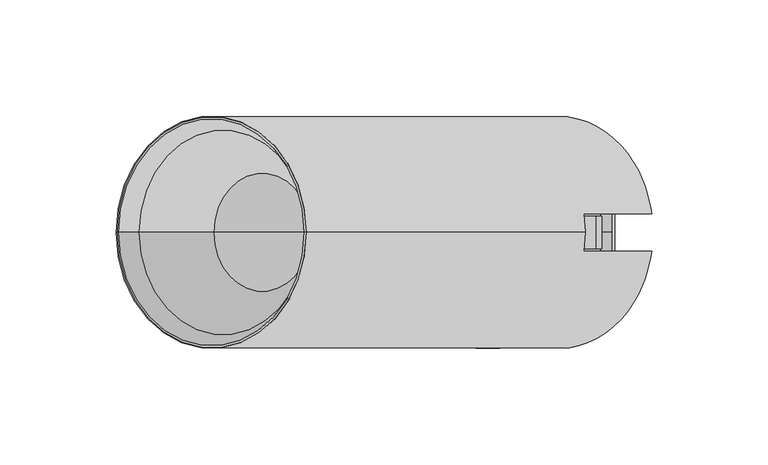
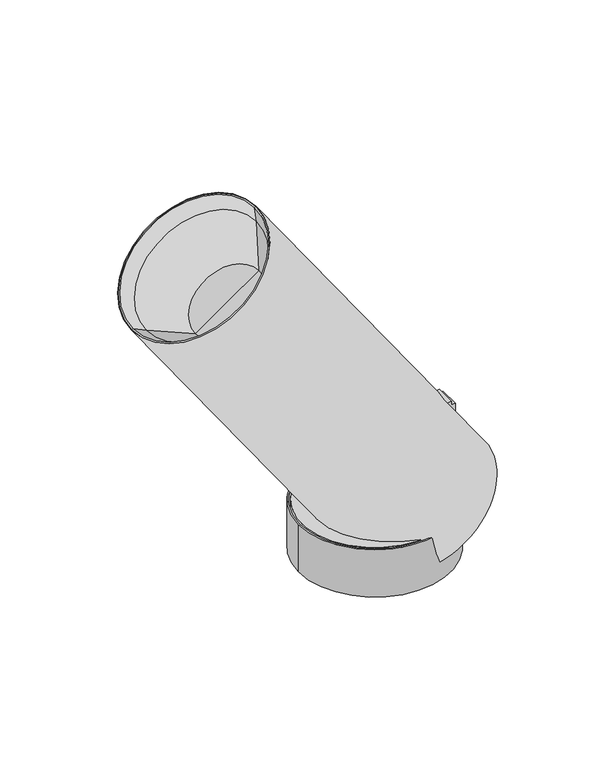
"""IFC4 building model written with IfcOpenShell, lengths in millimetres: light fixture geometry, PIPES C S : 1700 21W-830 28°."""

from ifc_helpers import new_model, si_unit, point, frame, frame_2d, origin, origin_with_axes, origin_2d, place, context, project, spatial, polyline, circle_curve, trimmed, segment, composite_curve, outline, extrude, source, transform, mapped, element, save
from ifc_brep_helpers import plane_surface, cylinder_surface, revolved_surface, advanced_brep


def light_fixture_01643114(model_context):
    return source(origin(), model_context, "Body", "SolidModel", [
        advanced_brep(
        [(25.4991388, 8.0, 81.2749081), (48.4421962, 8.0, 48.5088264), (62.6369857, 8.0, 58.4481249), (68.9463265, 8.0, 49.4374524), (70.6069217, 8.0, 50.6002137), (41.3545234, 8.0, 92.376968), (25.4991388, -8.0, 81.2749081), (41.3545234, -8.0, 92.376968), (70.6069217, -8.0, 50.6002137), (68.9463265, -8.0, 49.4374524), (62.6369857, -8.0, 58.4481249), (48.4421962, -8.0, 48.5088264), (48.4421962, 0.0, 48.5088264), (41.8821796, 0.0, 92.7464369), (-159.9105, 0.0, 206.5915705), (-77.9952956, 0.0, 263.9492141), (-76.8776407, 0.0, 253.4002662), (-150.3799919, 0.0, 201.9333658), (-10.7806265, 0.0, -6.387961), (-9.1423224, 0.0, -5.2408082), (-15.4516632, 0.0, 3.7698643), (23.8676349, 0.0, 31.3015333), (-117.641802, 0.0, 188.1883923), (-75.1587109, 0.0, 217.9353729), (-96.4002565, 0.0, 203.0618826)],
        [
            (0, 1),
            (1, 2),
            (2, 3),
            (3, 4),
            (4, 5),
            (5, 0),
            (6, 7),
            (7, 8),
            (8, 9),
            (9, 10),
            (10, 11),
            (11, 6),
            (0, 6),
            (11, 12),
            (12, 1),
            (5, 13, circle_curve(frame((0.9245774, 0.0, 64.067615), z_axis=(0.5735764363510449, 0.0, -0.8191520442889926), x_axis=(0.8191520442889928, 0.0, 0.573576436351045)), 50.0)),
            (13, 7, circle_curve(frame((0.9245774, 0.0, 64.067615), z_axis=(0.5735764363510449, 0.0, -0.8191520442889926), x_axis=(0.8191520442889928, 0.0, 0.573576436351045)), 50.0)),
            (14, 15, circle_curve(frame((-118.9528978, 0.0, 235.2703923), z_axis=(-0.5735764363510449, 0.0, 0.8191520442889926), x_axis=(0.8191520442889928, 0.0, 0.573576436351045)), 50.0)),
            (15, 16),
            (16, 17, circle_curve(frame((-113.6288163, 0.0, 227.666816), z_axis=(0.5735764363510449, 0.0, -0.8191520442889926), x_axis=(0.8191520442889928, 0.0, 0.573576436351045)), 44.8649013)),
            (17, 14),
            (15, 14, circle_curve(frame((-118.9528978, 0.0, 235.2703923), z_axis=(-0.5735764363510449, 0.0, 0.8191520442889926), x_axis=(0.8191520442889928, 0.0, 0.573576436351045)), 50.0)),
            (17, 16, circle_curve(frame((-113.6288163, 0.0, 227.666816), z_axis=(0.5735764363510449, 0.0, -0.8191520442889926), x_axis=(0.8191520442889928, 0.0, 0.573576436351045)), 44.8649013)),
            (14, 18),
            (18, 8, circle_curve(frame((30.1769757, 0.0, 22.2908608), z_axis=(-0.5735764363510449, 0.0, 0.8191520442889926), x_axis=(0.8191520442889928, 0.0, 0.573576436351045)), 50.0)),
            (13, 15),
            (4, 18, circle_curve(frame((30.1769757, 0.0, 22.2908608), z_axis=(-0.5735764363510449, 0.0, 0.8191520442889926), x_axis=(0.8191520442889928, 0.0, 0.573576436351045)), 50.0)),
            (18, 19),
            (19, 9, circle_curve(frame((30.1769757, 0.0, 22.2908608), z_axis=(-0.5735764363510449, 0.0, 0.8191520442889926), x_axis=(0.8191520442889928, 0.0, 0.573576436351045)), 48.0)),
            (3, 19, circle_curve(frame((30.1769757, 0.0, 22.2908608), z_axis=(-0.5735764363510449, 0.0, 0.8191520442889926), x_axis=(0.8191520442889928, 0.0, 0.573576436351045)), 48.0)),
            (19, 20),
            (20, 10, circle_curve(frame((23.8676349, 0.0, 31.3015333), z_axis=(-0.5735764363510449, 0.0, 0.8191520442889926), x_axis=(0.8191520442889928, 0.0, 0.573576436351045)), 48.0)),
            (2, 20, circle_curve(frame((23.8676349, 0.0, 31.3015333), z_axis=(-0.5735764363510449, 0.0, 0.8191520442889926), x_axis=(0.8191520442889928, 0.0, 0.573576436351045)), 48.0)),
            (20, 21),
            (21, 12),
            (22, 23, circle_curve(frame((-96.4002565, 0.0, 203.0618826), z_axis=(-0.5735764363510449, 0.0, 0.8191520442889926), x_axis=(0.8191520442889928, 0.0, 0.573576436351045)), 25.931139)),
            (23, 24),
            (24, 22),
            (23, 22, circle_curve(frame((-96.4002565, 0.0, 203.0618826), z_axis=(-0.5735764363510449, 0.0, 0.8191520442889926), x_axis=(0.8191520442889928, 0.0, 0.573576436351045)), 25.931139)),
            (16, 23),
            (22, 17),
        ],
        [
            plane_surface(frame((25.4991388, 8.0, 81.2749081), z_axis=(0.0, -1.0000000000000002, 0.0), x_axis=(-0.5735764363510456, 0.0, 0.8191520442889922))),
            plane_surface(frame((25.4991388, -8.0, 81.2749081), z_axis=(0.0, 1.0000000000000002, 0.0), x_axis=(0.5735764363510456, 0.0, -0.8191520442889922))),
            plane_surface(frame((25.4991388, -8.0, 81.2749081), z_axis=(0.8191520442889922, 0.0, 0.5735764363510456), x_axis=(0.0, 1.0, 0.0))),
            plane_surface(frame((45.9779399, -8.0, 95.614319), z_axis=(0.5735764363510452, 0.0, -0.8191520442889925), x_axis=(0.0, 1.0, 0.0))),
            revolved_surface(polyline([(-76.8776407, 0.0, 253.4002662), (-77.9952956, 0.0, 263.9492141)]), (33.3043329, 0.0, 17.8245318), (0.5735764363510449, 0.0, -0.8191520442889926)),
            cylinder_surface(frame((33.3043329, 0.0, 17.8245318), z_axis=(0.5735764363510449, 0.0, -0.8191520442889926), x_axis=(0.8191520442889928, 0.0, 0.573576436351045)), 50.0),
            plane_surface(frame((30.1769757, 0.0, 22.2908608), z_axis=(0.5735764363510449, 0.0, -0.8191520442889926), x_axis=(0.8191520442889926, 0.0, 0.5735764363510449))),
            revolved_surface(polyline([(69.49627384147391, 0.0, 49.82252967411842), (63.18693299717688, 0.0, 58.83320222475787)]), (33.3043329, 0.0, 17.8245318), (0.5735764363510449, 0.0, -0.8191520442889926)),
            plane_surface(frame((23.8676349, 0.0, 31.3015333), z_axis=(0.5735764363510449, 0.0, -0.8191520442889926), x_axis=(0.8191520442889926, 0.0, 0.5735764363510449))),
            plane_surface(frame((-96.4002565, 0.0, 203.0618826), z_axis=(-0.5735764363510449, 0.0, 0.8191520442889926), x_axis=(0.8191520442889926, 0.0, 0.5735764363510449))),
            revolved_surface(polyline([(-75.1587109, 0.0, 217.9353729), (-76.8776407, 0.0, 253.4002662)]), (33.3043329, 0.0, 17.8245318), (0.5735764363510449, 0.0, -0.8191520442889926)),
        ],
        [
            (0, [[1, 2, 3, 4, 5, 6]]),
            (1, [[7, 8, 9, 10, 11, 12]]),
            (2, [[13, -12, 14, 15, -1]]),
            (3, [[-13, -6, 16, 17, -7]]),
            (4, [[18, 19, 20, 21]]),
            (4, [[-19, 22, -21, 23]]),
            (5, [[-18, 24, 25, -8, -17, 26]]),
            (5, [[-22, -26, -16, -5, 27, -24]]),
            (6, [[28, 29, -9, -25]]),
            (6, [[-28, -27, -4, 30]]),
            (7, [[31, 32, -10, -29]]),
            (7, [[-31, -30, -3, 33]]),
            (8, [[34, 35, -14, -11, -32]]),
            (8, [[-34, -33, -2, -15, -35]]),
            (9, [[36, 37, 38]]),
            (9, [[-37, 39, -38]]),
            (10, [[-20, 40, -36, 41]]),
            (10, [[-23, -41, -39, -40]]),
        ],
    ),
        advanced_brep(
        [(53.6043841, 8.0, 41.136458), (54.751537, 8.0, 39.4981539), (67.2826868, 8.0, 48.2725594), (66.1355339, 8.0, 49.9108635), (54.751537, -8.0, 39.4981539), (53.6043841, -8.0, 41.136458), (66.1355339, -8.0, 49.9108635), (67.2826868, -8.0, 48.2725594), (53.6043841, 0.0, 41.136458), (54.751537, 0.0, 39.4981539), (28.7548491, 0.0, 23.7366262), (-9.1959115, 0.0, -2.8367825), (-8.0487587, 0.0, -4.4750866), (29.902002, 0.0, 22.0983221)],
        [
            (0, 1),
            (1, 2),
            (2, 3),
            (3, 0),
            (4, 5),
            (5, 6),
            (6, 7),
            (7, 4),
            (0, 8),
            (8, 5),
            (4, 9),
            (9, 1),
            (10, 11),
            (11, 6, circle_curve(frame((28.7548491, 0.0, 23.7366262), z_axis=(-0.5735764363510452, 0.0, 0.8191520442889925), x_axis=(0.8191520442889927, 0.0, 0.5735764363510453)), 46.3293243)),
            (8, 10),
            (3, 11, circle_curve(frame((28.7548491, 0.0, 23.7366262), z_axis=(-0.5735764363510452, 0.0, 0.8191520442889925), x_axis=(0.8191520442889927, 0.0, 0.5735764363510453)), 46.3293243)),
            (11, 12),
            (12, 7, circle_curve(frame((29.902002, 0.0, 22.0983221), z_axis=(-0.5735764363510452, 0.0, 0.8191520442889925), x_axis=(0.8191520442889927, 0.0, 0.5735764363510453)), 46.3293243)),
            (2, 12, circle_curve(frame((29.902002, 0.0, 22.0983221), z_axis=(-0.5735764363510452, 0.0, 0.8191520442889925), x_axis=(0.8191520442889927, 0.0, 0.5735764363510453)), 46.3293243)),
            (12, 13),
            (13, 9),
        ],
        [
            plane_surface(frame((25.4991388, 8.0, 81.2749081), z_axis=(0.0, -1.0000000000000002, 0.0), x_axis=(-0.5735764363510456, 0.0, 0.8191520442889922))),
            plane_surface(frame((25.4991388, -8.0, 81.2749081), z_axis=(0.0, 1.0000000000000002, 0.0), x_axis=(0.5735764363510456, 0.0, -0.8191520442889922))),
            plane_surface(frame((25.4991388, -8.0, 81.2749081), z_axis=(0.8191520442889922, 0.0, 0.5735764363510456), x_axis=(0.0, 1.0, 0.0))),
            plane_surface(frame((28.7548491, 0.0, 23.7366262), z_axis=(-0.5735764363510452, 0.0, 0.8191520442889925), x_axis=(0.8191520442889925, 0.0, 0.5735764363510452))),
            cylinder_surface(frame((33.0293592, 0.0, 17.6319931), z_axis=(0.5735764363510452, 0.0, -0.8191520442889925), x_axis=(0.8191520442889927, 0.0, 0.5735764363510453)), 46.3293243),
            plane_surface(frame((29.902002, 0.0, 22.0983221), z_axis=(0.5735764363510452, 0.0, -0.8191520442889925), x_axis=(0.8191520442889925, 0.0, 0.5735764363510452))),
        ],
        [
            (0, [[1, 2, 3, 4]]),
            (1, [[5, 6, 7, 8]]),
            (2, [[-1, 9, 10, -5, 11, 12]]),
            (3, [[13, 14, -6, -10, 15]]),
            (3, [[-13, -15, -9, -4, 16]]),
            (4, [[17, 18, -7, -14]]),
            (4, [[-17, -16, -3, 19]]),
            (5, [[20, 21, -11, -8, -18]]),
            (5, [[-20, -19, -2, -12, -21]]),
        ],
    ),
        advanced_brep(
        [(-159.9105, 0.0, 206.5915705), (-77.9952956, 0.0, 263.9492141), (-78.931443, 0.0, 263.2937166), (-158.9743526, 0.0, 207.2470679), (-117.7634166, 0.0, 189.3240114), (-76.1842492, 0.0, 218.4380578), (-96.9738329, 0.0, 203.8810346), (-149.966538, 0.0, 202.8443389), (-77.875085, 0.0, 253.3233177), (-150.3799919, 0.0, 201.9333658), (-76.8776407, 0.0, 253.4002662), (-117.641802, 0.0, 188.1883923), (-75.1587109, 0.0, 217.9353729), (-96.4002565, 0.0, 203.0618826)],
        [
            (0, 1, circle_curve(frame((-118.9528978, 0.0, 235.2703923), z_axis=(-0.5735764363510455, 0.0, 0.8191520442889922), x_axis=(0.8191520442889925, 0.0, 0.5735764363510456)), 50.0)),
            (1, 2),
            (2, 3, circle_curve(frame((-118.9528978, 0.0, 235.2703923), z_axis=(0.5735764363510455, 0.0, -0.8191520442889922), x_axis=(0.8191520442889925, 0.0, 0.5735764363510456)), 48.857175)),
            (3, 0),
            (1, 0, circle_curve(frame((-118.9528978, 0.0, 235.2703923), z_axis=(-0.5735764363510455, 0.0, 0.8191520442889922), x_axis=(0.8191520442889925, 0.0, 0.5735764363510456)), 50.0)),
            (3, 2, circle_curve(frame((-118.9528978, 0.0, 235.2703923), z_axis=(0.5735764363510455, 0.0, -0.8191520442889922), x_axis=(0.8191520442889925, 0.0, 0.5735764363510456)), 48.857175)),
            (4, 5, circle_curve(frame((-96.9738329, 0.0, 203.8810346), z_axis=(-0.5735764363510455, 0.0, 0.8191520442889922), x_axis=(0.8191520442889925, 0.0, 0.5735764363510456)), 25.3793955)),
            (5, 6),
            (6, 4),
            (5, 4, circle_curve(frame((-96.9738329, 0.0, 203.8810346), z_axis=(-0.5735764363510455, 0.0, 0.8191520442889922), x_axis=(0.8191520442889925, 0.0, 0.5735764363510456)), 25.3793955)),
            (7, 8, circle_curve(frame((-113.9208115, 0.0, 228.0838283), z_axis=(-0.5735764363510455, 0.0, 0.8191520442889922), x_axis=(0.8191520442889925, 0.0, 0.5735764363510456)), 44.0037069)),
            (8, 5),
            (4, 7),
            (8, 7, circle_curve(frame((-113.9208115, 0.0, 228.0838283), z_axis=(-0.5735764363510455, 0.0, 0.8191520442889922), x_axis=(0.8191520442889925, 0.0, 0.5735764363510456)), 44.0037069)),
            (9, 10, circle_curve(frame((-113.6288163, 0.0, 227.666816), z_axis=(-0.5735764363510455, 0.0, 0.8191520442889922), x_axis=(0.8191520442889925, 0.0, 0.5735764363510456)), 44.8649013)),
            (10, 1),
            (0, 9),
            (10, 9, circle_curve(frame((-113.6288163, 0.0, 227.666816), z_axis=(-0.5735764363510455, 0.0, 0.8191520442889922), x_axis=(0.8191520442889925, 0.0, 0.5735764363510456)), 44.8649013)),
            (11, 12, circle_curve(frame((-96.4002565, 0.0, 203.0618826), z_axis=(-0.5735764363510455, 0.0, 0.8191520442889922), x_axis=(0.8191520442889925, 0.0, 0.5735764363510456)), 25.931139)),
            (12, 10),
            (9, 11),
            (12, 11, circle_curve(frame((-96.4002565, 0.0, 203.0618826), z_axis=(-0.5735764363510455, 0.0, 0.8191520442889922), x_axis=(0.8191520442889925, 0.0, 0.5735764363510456)), 25.931139)),
            (13, 12),
            (11, 13),
            (2, 8),
            (7, 3),
        ],
        [
            plane_surface(frame((-118.9528978, 0.0, 235.2703923), z_axis=(-0.5735764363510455, 0.0, 0.8191520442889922), x_axis=(0.8191520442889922, 0.0, 0.5735764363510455))),
            plane_surface(frame((-96.9738329, 0.0, 203.8810346), z_axis=(-0.5735764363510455, 0.0, 0.8191520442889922), x_axis=(0.8191520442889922, 0.0, 0.5735764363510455))),
            revolved_surface(polyline([(-76.1842492, 0.0, 218.4380578), (-77.875085, 0.0, 253.3233177)]), (33.771135, 0.0, 17.1578693), (0.5735764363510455, 0.0, -0.8191520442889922)),
            revolved_surface(polyline([(-77.9952956, 0.0, 263.9492141), (-76.8776407, 0.0, 253.4002662)]), (33.771135, 0.0, 17.1578693), (0.5735764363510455, 0.0, -0.8191520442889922)),
            revolved_surface(polyline([(-76.8776407, 0.0, 253.4002662), (-75.1587109, 0.0, 217.9353729)]), (33.771135, 0.0, 17.1578693), (0.5735764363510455, 0.0, -0.8191520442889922)),
            plane_surface(frame((-96.4002565, 0.0, 203.0618826), z_axis=(0.5735764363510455, 0.0, -0.8191520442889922), x_axis=(0.8191520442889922, 0.0, 0.5735764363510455))),
            revolved_surface(polyline([(-77.875085, 0.0, 253.3233177), (-78.931443, 0.0, 263.2937166)]), (33.771135, 0.0, 17.1578693), (0.5735764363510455, 0.0, -0.8191520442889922)),
        ],
        [
            (0, [[1, 2, 3, 4]]),
            (0, [[5, -4, 6, -2]]),
            (1, [[7, 8, 9]]),
            (1, [[10, -9, -8]]),
            (2, [[11, 12, -7, 13]]),
            (2, [[14, -13, -10, -12]]),
            (3, [[15, 16, -1, 17]]),
            (3, [[18, -17, -5, -16]]),
            (4, [[19, 20, -15, 21]]),
            (4, [[22, -21, -18, -20]]),
            (5, [[23, -19, 24]]),
            (5, [[-24, -22, -23]]),
            (6, [[-3, 25, -11, 26]]),
            (6, [[-6, -26, -14, -25]]),
        ],
    ),
        extrude(outline(composite_curve([segment(trimmed(circle_curve(origin_2d(), 48.0), [point((0.0, -48.0))], [point((0.0, 48.0))], False, "CARTESIAN"), True, "CONTINUOUS"), segment(trimmed(circle_curve(origin_2d(), 48.0), [point((0.0, 48.0))], [point((0.0, -48.0))], False, "CARTESIAN"), True, "CONTINUOUS")], self_intersect=False)), origin_with_axes(), (0.0, 0.0, 1.0), 33.0),
        extrude(outline(composite_curve([segment(polyline([(79.5474065, 30.0074467), (33.0, 30.0074467), (33.0, 49.0), (86.7928568, 49.0), (86.7928568, 46.5), (89.0, 46.5), (87.7157773, 37.3622808)]), True, "CONTINUOUS"), segment(trimmed(circle_curve(frame_2d((79.2490169, 38.5522063)), 8.5499681), [point((87.7157773, 37.3622808))], [point((79.5474065, 30.0074467))], False, "CARTESIAN"), True, "CONTINUOUS")], self_intersect=False)), frame((0.0, -7.0, 0.0), z_axis=(0.0, 1.0, 0.0), x_axis=(0.0, 0.0, 1.0)), (0.0, 0.0, 1.0), 14.0),
        extrude(outline(composite_curve([segment(trimmed(circle_curve(origin_2d(), 50.0), [point((-50.0, 0.0))], [point((50.0, 0.0))], False, "CARTESIAN"), True, "CONTINUOUS"), segment(trimmed(circle_curve(origin_2d(), 50.0), [point((50.0, 0.0))], [point((-50.0, 0.0))], False, "CARTESIAN"), True, "CONTINUOUS")], self_intersect=False), holes=[composite_curve([segment(trimmed(circle_curve(origin_2d(), 49.0), [point((-49.0, 0.0))], [point((49.0, 0.0))], True, "CARTESIAN"), True, "CONTINUOUS"), segment(trimmed(circle_curve(origin_2d(), 49.0), [point((49.0, 0.0))], [point((-49.0, 0.0))], True, "CARTESIAN"), True, "CONTINUOUS")], self_intersect=False)]), origin_with_axes(), (0.0, 0.0, 1.0), 33.0),
    ])


if __name__ == "__main__":
    model = new_model("IFC4")
    model_context = context("Model", 3, world=origin())
    ifc_project = project(units=[si_unit("LENGTHUNIT", "METRE", prefix="MILLI")], contexts=[model_context])
    site = spatial("IfcSite", under=ifc_project)
    building = spatial("IfcBuilding", under=site)
    placement = place(None, origin())
    light_fixture_shape = light_fixture_01643114(model_context)
    element("IfcLightFixture", 1, ObjectType="PIPES C S : 1700 21W-830 28°", at=placement, inside=building, context=model_context, shape_type="MappedRepresentation", body=[
        mapped(light_fixture_shape, transform((0.0, 0.0, 0.0), x_axis=(1.0, 0.0, 0.0), y_axis=(0.0, 1.0, 0.0), z_axis=(0.0, 0.0, 1.0))),
    ])
    save(model, "model.ifc")
